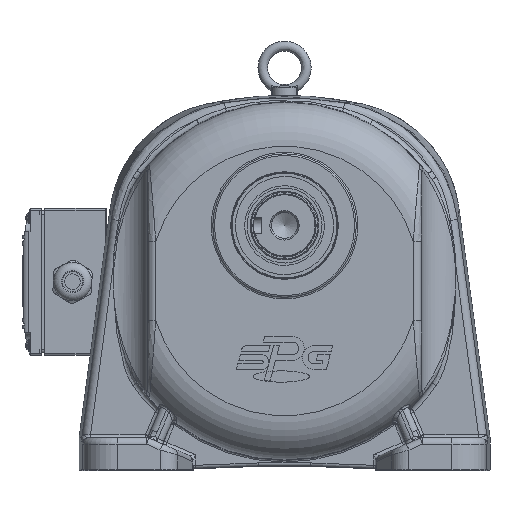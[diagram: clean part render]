
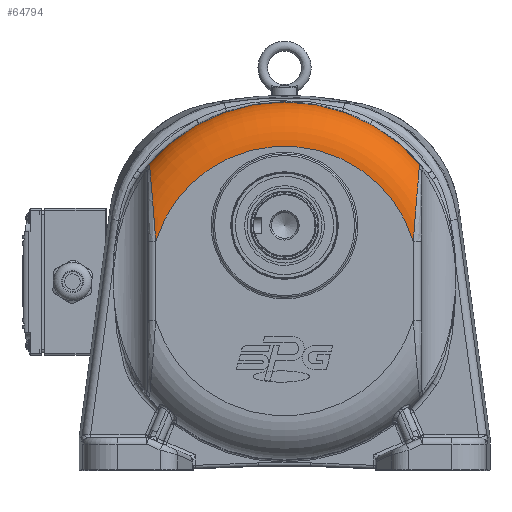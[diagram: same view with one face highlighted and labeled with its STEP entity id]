
A CAD part, top view. The second image highlights one B-rep face of the part: STEP entity #64794.
In plain terms, the highlighted toroidal (fillet/blend) face has major radius 82.678 mm and minor radius 27 mm.
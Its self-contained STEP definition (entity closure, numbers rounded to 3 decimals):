
#1001=TOROIDAL_SURFACE('',#70557,82.678,27.);
#11356=FACE_OUTER_BOUND('',#15444,.T.);
#15444=EDGE_LOOP('',(#47573,#47574,#47575,#47576,#47577,#47578));
#19001=CIRCLE('',#69196,109.669);
#19673=CIRCLE('',#70534,82.678);
#21922=B_SPLINE_CURVE_WITH_KNOTS('',3,(#100089,#100090,#100091,#100092,
#100093),.UNSPECIFIED.,.F.,.F.,(4,1,4),(-0.783,-0.335,
0.),.UNSPECIFIED.);
#21930=B_SPLINE_CURVE_WITH_KNOTS('',3,(#100303,#100304,#100305,#100306,
#100307),.UNSPECIFIED.,.F.,.F.,(4,1,4),(-0.783,-0.447,
0.),.UNSPECIFIED.);
#22182=B_SPLINE_CURVE_WITH_KNOTS('',3,(#111694,#111695,#111696,#111697,
#111698,#111699,#111700,#111701,#111702),.UNSPECIFIED.,.F.,.F.,(4,1,1,1,
1,1,4),(-14.071,-13.415,-12.758,-12.43,
-12.101,-10.788,-9.474),.UNSPECIFIED.);
#22183=B_SPLINE_CURVE_WITH_KNOTS('',3,(#111703,#111704,#111705,#111706,
#111707,#111708,#111709,#111710,#111711),.UNSPECIFIED.,.F.,.F.,(4,1,1,1,
1,1,4),(-4.597,-3.284,-1.97,-1.642,
-1.313,-0.657,0.),.UNSPECIFIED.);
#25855=VERTEX_POINT('',#100085);
#25857=VERTEX_POINT('',#100088);
#25867=VERTEX_POINT('',#100299);
#25869=VERTEX_POINT('',#100302);
#26857=VERTEX_POINT('',#111586);
#26858=VERTEX_POINT('',#111588);
#32501=EDGE_CURVE('',#25855,#25857,#21922,.T.);
#32515=EDGE_CURVE('',#25867,#25869,#21930,.T.);
#32565=EDGE_CURVE('',#25867,#25857,#19001,.T.);
#34199=EDGE_CURVE('',#26858,#26857,#19673,.T.);
#34253=EDGE_CURVE('',#25869,#26857,#22182,.T.);
#34254=EDGE_CURVE('',#26858,#25855,#22183,.T.);
#47573=ORIENTED_EDGE('',*,*,#34199,.T.);
#47574=ORIENTED_EDGE('',*,*,#34253,.F.);
#47575=ORIENTED_EDGE('',*,*,#32515,.F.);
#47576=ORIENTED_EDGE('',*,*,#32565,.T.);
#47577=ORIENTED_EDGE('',*,*,#32501,.F.);
#47578=ORIENTED_EDGE('',*,*,#34254,.F.);
#64794=ADVANCED_FACE('',(#11356),#1001,.T.);
#69196=AXIS2_PLACEMENT_3D('',#100549,#79422,#79423);
#70534=AXIS2_PLACEMENT_3D('',#111589,#82648,#82649);
#70557=AXIS2_PLACEMENT_3D('',#111693,#82725,#82726);
#79422=DIRECTION('center_axis',(0.,0.,1.));
#79423=DIRECTION('ref_axis',(-1.,0.,0.));
#82648=DIRECTION('center_axis',(0.,0.,-1.));
#82649=DIRECTION('ref_axis',(-1.,0.,0.));
#82725=DIRECTION('center_axis',(0.,0.,-1.));
#82726=DIRECTION('ref_axis',(-1.,0.,0.));
#100085=CARTESIAN_POINT('',(-79.676,69.434,71.818));
#100088=CARTESIAN_POINT('',(-81.021,70.692,62.686));
#100089=CARTESIAN_POINT('Ctrl Pts',(-79.676,69.434,
71.818));
#100090=CARTESIAN_POINT('Ctrl Pts',(-79.745,70.301,
70.254));
#100091=CARTESIAN_POINT('Ctrl Pts',(-80.033,71.351,
67.114));
#100092=CARTESIAN_POINT('Ctrl Pts',(-80.697,71.028,63.945));
#100093=CARTESIAN_POINT('Ctrl Pts',(-81.021,70.692,62.686));
#100299=CARTESIAN_POINT('',(86.803,70.692,62.686));
#100302=CARTESIAN_POINT('',(85.457,69.434,71.818));
#100303=CARTESIAN_POINT('Ctrl Pts',(86.803,70.692,62.686));
#100304=CARTESIAN_POINT('Ctrl Pts',(86.478,71.028,63.945));
#100305=CARTESIAN_POINT('Ctrl Pts',(85.809,71.346,67.149));
#100306=CARTESIAN_POINT('Ctrl Pts',(85.527,70.301,70.254));
#100307=CARTESIAN_POINT('Ctrl Pts',(85.457,69.434,71.818));
#100549=CARTESIAN_POINT('Origin',(2.891,0.08,62.686));
#111586=CARTESIAN_POINT('',(81.891,24.465,89.));
#111588=CARTESIAN_POINT('',(-76.109,24.465,89.));
#111589=CARTESIAN_POINT('Origin',(2.891,0.08,89.));
#111693=CARTESIAN_POINT('Origin',(2.891,0.08,62.));
#111694=CARTESIAN_POINT('Ctrl Pts',(85.457,69.434,71.818));
#111695=CARTESIAN_POINT('Ctrl Pts',(85.355,68.161,74.115));
#111696=CARTESIAN_POINT('Ctrl Pts',(85.085,64.816,78.204));
#111697=CARTESIAN_POINT('Ctrl Pts',(84.661,59.673,81.832));
#111698=CARTESIAN_POINT('Ctrl Pts',(84.291,55.253,84.054));
#111699=CARTESIAN_POINT('Ctrl Pts',(83.726,48.507,86.724));
#111700=CARTESIAN_POINT('Ctrl Pts',(82.842,37.972,88.739));
#111701=CARTESIAN_POINT('Ctrl Pts',(82.171,28.932,89.));
#111702=CARTESIAN_POINT('Ctrl Pts',(81.891,24.465,89.));
#111703=CARTESIAN_POINT('Ctrl Pts',(-76.109,24.465,
89.));
#111704=CARTESIAN_POINT('Ctrl Pts',(-76.39,28.932,
89.));
#111705=CARTESIAN_POINT('Ctrl Pts',(-77.061,37.972,
88.739));
#111706=CARTESIAN_POINT('Ctrl Pts',(-77.944,48.507,
86.724));
#111707=CARTESIAN_POINT('Ctrl Pts',(-78.51,55.253,
84.054));
#111708=CARTESIAN_POINT('Ctrl Pts',(-78.879,59.673,
81.832));
#111709=CARTESIAN_POINT('Ctrl Pts',(-79.304,64.816,78.204));
#111710=CARTESIAN_POINT('Ctrl Pts',(-79.574,68.161,
74.115));
#111711=CARTESIAN_POINT('Ctrl Pts',(-79.676,69.434,
71.818));
